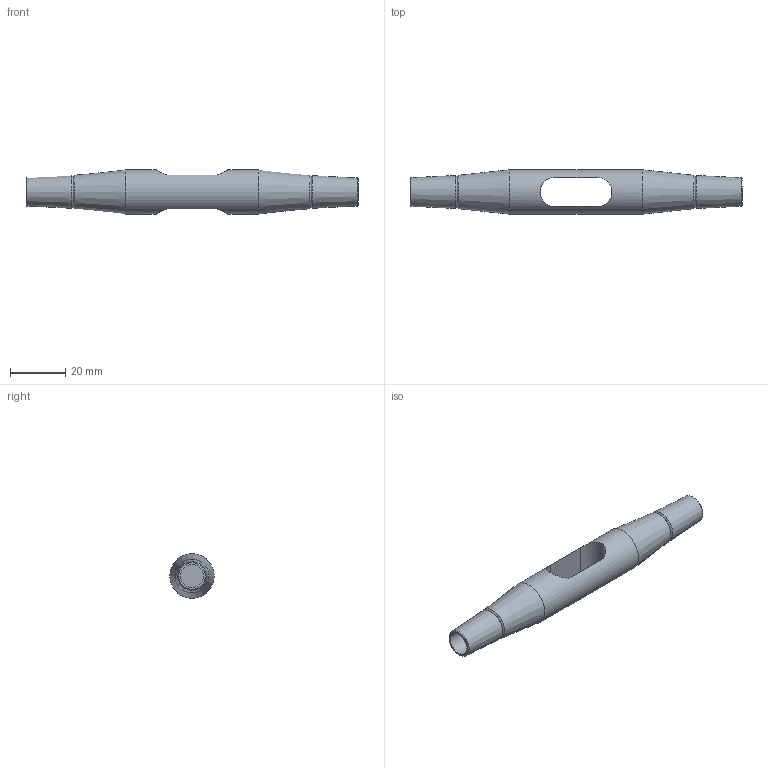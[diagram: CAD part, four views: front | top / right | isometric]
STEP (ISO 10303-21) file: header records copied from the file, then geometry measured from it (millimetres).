
FILE_DESCRIPTION(/* description */ (''),/* implementation_level */ '2;1');
FILE_NAME(/* name */ 'G:\Engineering\700 CAD\Internet-PX-1-step-igs-dxf\520-KMF-Arbeitsdateien\520-008-KMF.stp',/* time_stamp */ '2020-07-02T13:16:21+02:00',/* author */ ('schwarz'),/* organization */ (''),/* preprocessor_version */ 'ST-DEVELOPER v16.1',/* originating_system */ 'Autodesk Inventor 2016',/* authorisation */ '');
FILE_SCHEMA (('AUTOMOTIVE_DESIGN { 1 0 10303 214 3 1 1 }'));
Length unit declared in the file: centimetre
Products named in the file (1): Kreuzmuffen-Set 520 008 Kunde
Bounding box: 120 x 16 x 16 mm (x, y, z)
Volume: 13669.7 mm3; surface area: 6448.6 mm2
Topology: 1 solids, 1 shells, 21 faces, 43 edges, 26 vertices
Faces by surface type: cone 10, plane 6, cylinder 5
Full cylindrical faces by diameter (mm): 8.4 x2, 16 x1
Entity records: 589 total; most frequent: CARTESIAN_POINT 142, DIRECTION 84, ORIENTED_EDGE 56, EDGE_LOOP 38, AXIS2_PLACEMENT_3D 38, EDGE_CURVE 28, VERTEX_POINT 24, STYLED_ITEM 22
